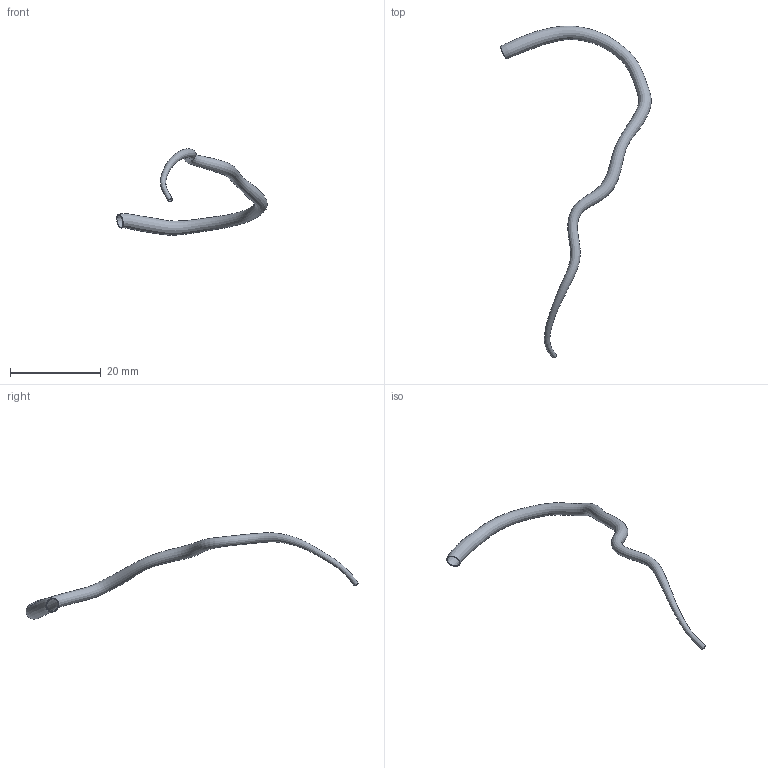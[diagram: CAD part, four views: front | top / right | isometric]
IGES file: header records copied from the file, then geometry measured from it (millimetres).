
Global section: file name: C:\Documents and Settings\Administrator\Desktop\FDA-Pig\Domestic RCA\Pig_000137\rca.seg.ed.igs; native system: Rhinoceros ( May 19 2006 ); preprocessor: Trout Lake IGES 012 May 19 2006; date: 111205.185813; units: centimetre
Bounding box: 33.28 x 73.35 x 19.07 mm (x, y, z)
Surface area: 1601.3 mm2 (no closed solid volume)
Topology: 0 solids, 0 shells, 4 faces, 13 edges, 10 vertices
Faces by surface type: bspline 4
